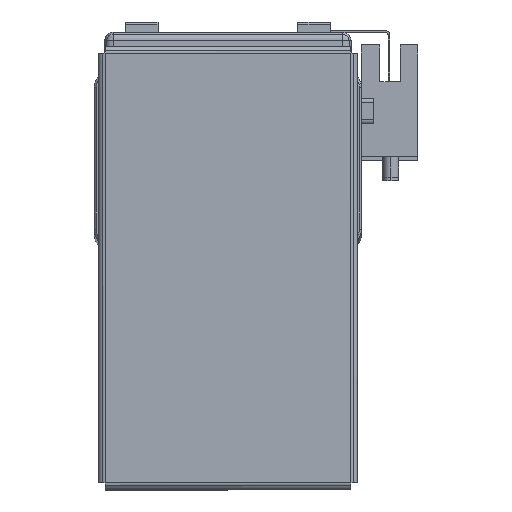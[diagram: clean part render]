
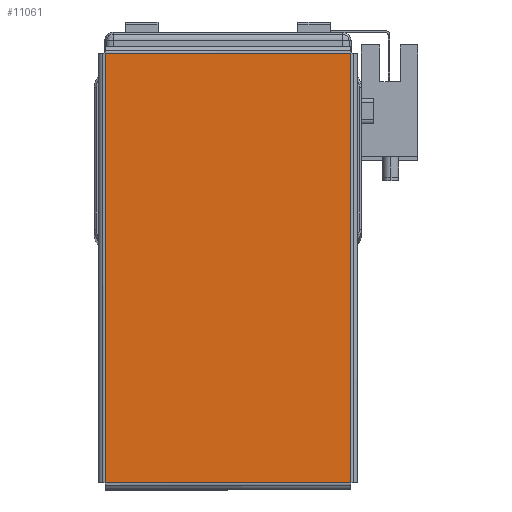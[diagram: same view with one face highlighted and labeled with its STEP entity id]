
A CAD part, top view. The second image highlights one B-rep face of the part: STEP entity #11061.
In plain terms, the highlighted planar face has unit normal (0, 0, 1) as drawn and (0, -1, 0) by its records, which use the part's own axes.
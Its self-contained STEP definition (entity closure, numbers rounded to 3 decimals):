
#285 = VERTEX_POINT ( 'NONE', #3406 ) ;
#299 = VERTEX_POINT ( 'NONE', #3377 ) ;
#305 = VERTEX_POINT ( 'NONE', #3414 ) ;
#332 = VERTEX_POINT ( 'NONE', #3386 ) ;
#3377 = CARTESIAN_POINT ( 'NONE',  ( 52.263, -1., -29.863 ) ) ;
#3386 = CARTESIAN_POINT ( 'NONE',  ( -52.263, -1., -29.863 ) ) ;
#3406 = CARTESIAN_POINT ( 'NONE',  ( -52.263, -1., 29.863 ) ) ;
#3414 = CARTESIAN_POINT ( 'NONE',  ( 52.263, -1., 29.863 ) ) ;
#6688 = VECTOR ( 'NONE', #7760, 1000. ) ;
#6695 = LINE ( 'NONE', #7810, #6714 ) ;
#6714 = VECTOR ( 'NONE', #7820, 1000. ) ;
#6716 = VECTOR ( 'NONE', #7793, 1000. ) ;
#6729 = LINE ( 'NONE', #7773, #6688 ) ;
#6731 = LINE ( 'NONE', #7746, #6716 ) ;
#6756 = VECTOR ( 'NONE', #7805, 1000. ) ;
#6798 = LINE ( 'NONE', #7800, #6756 ) ;
#7746 = CARTESIAN_POINT ( 'NONE',  ( 52.263, -1., -29.893 ) ) ;
#7760 = DIRECTION ( 'NONE',  ( -1., 0., 0. ) ) ;
#7773 = CARTESIAN_POINT ( 'NONE',  ( 52.293, -1., 29.863 ) ) ;
#7793 = DIRECTION ( 'NONE',  ( 0., 0., 1. ) ) ;
#7800 = CARTESIAN_POINT ( 'NONE',  ( -52.263, -1., 29.893 ) ) ;
#7805 = DIRECTION ( 'NONE',  ( 0., 0., -1. ) ) ;
#7810 = CARTESIAN_POINT ( 'NONE',  ( -52.293, -1., -29.863 ) ) ;
#7820 = DIRECTION ( 'NONE',  ( 1., 0., 0. ) ) ;
#11061 = ADVANCED_FACE ( 'NONE', ( #25277 ), #14416, .F. ) ;
#14394 = DIRECTION ( 'NONE',  ( 0., 0., 1. ) ) ;
#14405 = CARTESIAN_POINT ( 'NONE',  ( 0., -1., 0. ) ) ;
#14416 = PLANE ( 'NONE',  #23312 ) ;
#14417 = DIRECTION ( 'NONE',  ( 0., 1., 0. ) ) ;
#18965 = EDGE_LOOP ( 'NONE', ( #30888, #30883, #30906, #30850 ) ) ;
#22432 = EDGE_CURVE ( 'NONE', #305, #285, #6729, .T. ) ;
#22435 = EDGE_CURVE ( 'NONE', #299, #305, #6731, .T. ) ;
#22438 = EDGE_CURVE ( 'NONE', #332, #299, #6695, .T. ) ;
#22454 = EDGE_CURVE ( 'NONE', #285, #332, #6798, .T. ) ;
#23312 = AXIS2_PLACEMENT_3D ( 'NONE', #14405, #14417, #14394 ) ;
#25277 = FACE_OUTER_BOUND ( 'NONE', #18965, .T. ) ;
#30850 = ORIENTED_EDGE ( 'NONE', *, *, #22435, .T. ) ;
#30883 = ORIENTED_EDGE ( 'NONE', *, *, #22454, .T. ) ;
#30888 = ORIENTED_EDGE ( 'NONE', *, *, #22432, .T. ) ;
#30906 = ORIENTED_EDGE ( 'NONE', *, *, #22438, .T. ) ;
